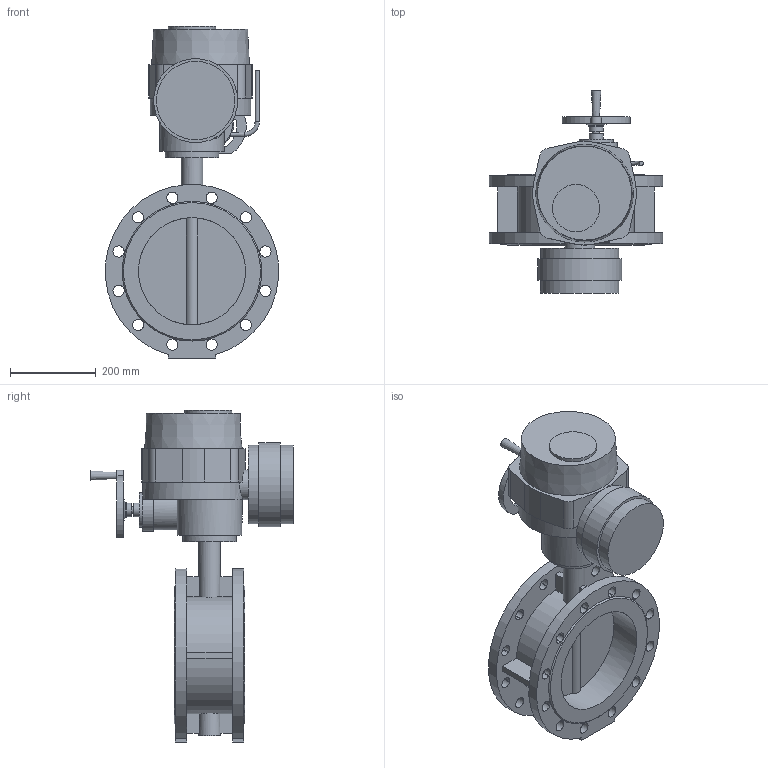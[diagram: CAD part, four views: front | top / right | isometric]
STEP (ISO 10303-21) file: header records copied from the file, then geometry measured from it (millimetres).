
FILE_DESCRIPTION(('STEP AP203'), '1');
FILE_NAME('青蜮铕 021F.Y DN250+菹 QT.A050', '', ('UNSPECIFIED'), ('UNSPECIFIED'), 'ASCON STEP Converter 1.6', 'ASCON Math Kernel', '');
FILE_SCHEMA(('CONFIG_CONTROL_DESIGN'));
Length unit declared in the file: millimetre
Bounding box: 403.72 x 472 x 774.5 mm (x, y, z)
Volume: 20986274.3 mm3; surface area: 1249483.2 mm2
Topology: 1 solids, 1 shells, 257 faces, 665 edges, 439 vertices
Faces by surface type: plane 143, cylinder 108, cone 5, torus 1
Full cylindrical faces by diameter (mm): 6.7 x8, 10 x2, 12 x4, 16 x1, 32 x2, 35 x1, 50 x2, 70 x1, 80 x1, 100 x1, 110 x1, 125 x1, 150 x1, 183 x2, 196 x1, 250 x2
Entity records: 11451 total; most frequent: CARTESIAN_POINT 2904, DIRECTION 1371, ORIENTED_EDGE 1256, EDGE_CURVE 628, AXIS2_PLACEMENT_3D 507, VERTEX_POINT 439, EDGE_LOOP 377, LINE 357
